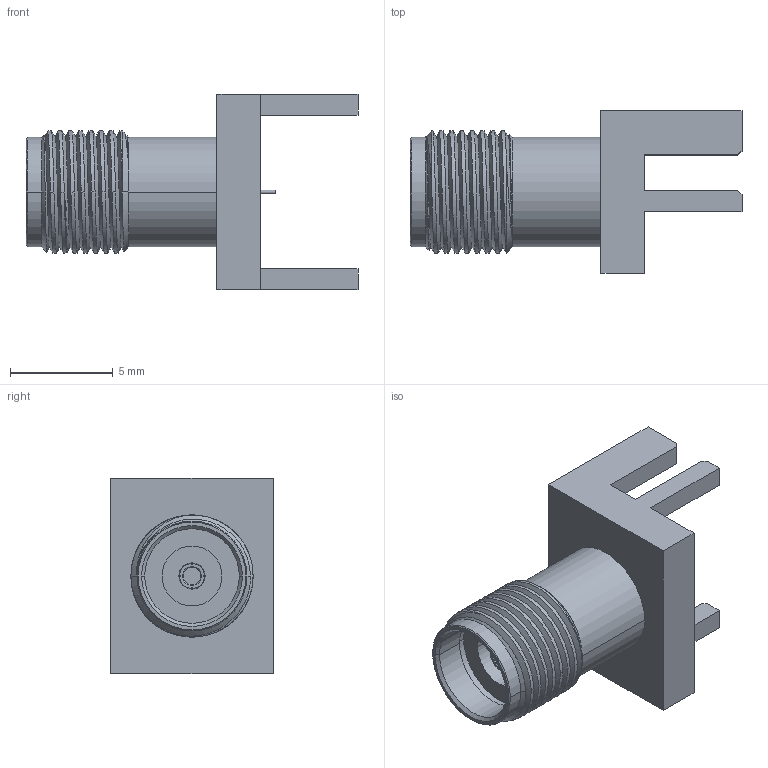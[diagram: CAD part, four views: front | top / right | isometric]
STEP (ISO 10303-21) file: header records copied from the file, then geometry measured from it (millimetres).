
FILE_DESCRIPTION (( 'STEP AP214' ), '1' );
FILE_NAME ('OL TMB-E9FS-1S1.STEP', '2021-06-25T03:46:17', ( '' ), ( '' ), 'SwSTEP 2.0', 'SolidWorks 2019', '' );
FILE_SCHEMA (( 'AUTOMOTIVE_DESIGN' ));
Length unit declared in the file: millimetre
Products named in the file (1): OL TMB-E9FS-1S1
Bounding box: 16.17 x 7.92 x 9.52 mm (x, y, z)
Volume: 363.3 mm3; surface area: 612.9 mm2
Topology: 1 solids, 1 shells, 104 faces, 268 edges, 172 vertices
Faces by surface type: plane 42, cone 28, cylinder 28, torus 4, bspline 2
Full cylindrical faces by diameter (mm): 0.178 x1
Entity records: 4871 total; most frequent: CARTESIAN_POINT 2481, ORIENTED_EDGE 524, DIRECTION 438, EDGE_CURVE 262, VERTEX_POINT 170, AXIS2_PLACEMENT_3D 165, EDGE_LOOP 114, VECTOR 108
